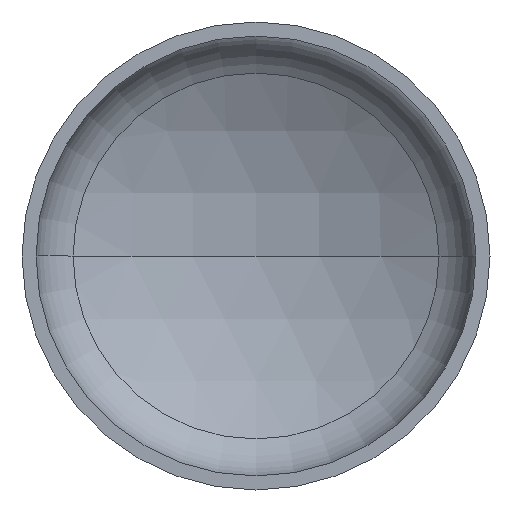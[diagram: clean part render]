
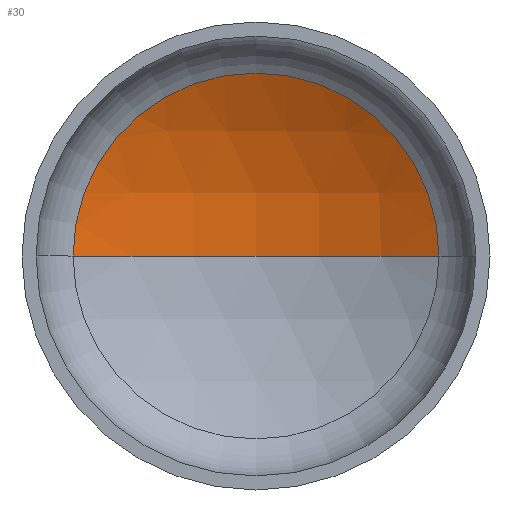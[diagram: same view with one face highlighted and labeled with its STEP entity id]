
A CAD part, front view. The second image highlights one B-rep face of the part: STEP entity #30.
In plain terms, the highlighted spherical face has radius 880 mm.
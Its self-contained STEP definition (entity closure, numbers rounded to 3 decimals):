
#2 = AXIS2_PLACEMENT_3D ( 'NONE', #372, #269, #104 ) ;
#7 = AXIS2_PLACEMENT_3D ( 'NONE', #389, #251, #409 ) ;
#9 = VERTEX_POINT ( 'NONE', #284 ) ;
#17 = EDGE_LOOP ( 'NONE', ( #272, #66, #26 ) ) ;
#25 = AXIS2_PLACEMENT_3D ( 'NONE', #171, #367, #225 ) ;
#26 = ORIENTED_EDGE ( 'NONE', *, *, #330, .T. ) ;
#30 = ADVANCED_FACE ( 'NONE', ( #141 ), #143, .F. ) ;
#66 = ORIENTED_EDGE ( 'NONE', *, *, #373, .T. ) ;
#79 = AXIS2_PLACEMENT_3D ( 'NONE', #403, #259, #249 ) ;
#80 = VERTEX_POINT ( 'NONE', #233 ) ;
#104 = DIRECTION ( 'NONE',  ( 1., 0., 0. ) ) ;
#124 = VERTEX_POINT ( 'NONE', #223 ) ;
#128 = CIRCLE ( 'NONE', #7, 880. ) ;
#141 = FACE_OUTER_BOUND ( 'NONE', #17, .T. ) ;
#143 = SPHERICAL_SURFACE ( 'NONE', #79, 880. ) ;
#156 = CIRCLE ( 'NONE', #25, 430.085 ) ;
#171 = CARTESIAN_POINT ( 'NONE',  ( 0., 248.314, 0. ) ) ;
#223 = CARTESIAN_POINT ( 'NONE',  ( 0., 360.572, 0. ) ) ;
#225 = DIRECTION ( 'NONE',  ( 1., 0., 0. ) ) ;
#233 = CARTESIAN_POINT ( 'NONE',  ( -430.085, 248.314, 0. ) ) ;
#249 = DIRECTION ( 'NONE',  ( -1., 0., 0. ) ) ;
#251 = DIRECTION ( 'NONE',  ( 0., 0., -1. ) ) ;
#259 = DIRECTION ( 'NONE',  ( 0., 0., -1. ) ) ;
#269 = DIRECTION ( 'NONE',  ( 0., 0., 1. ) ) ;
#272 = ORIENTED_EDGE ( 'NONE', *, *, #368, .F. ) ;
#284 = CARTESIAN_POINT ( 'NONE',  ( 430.085, 248.314, 0. ) ) ;
#321 = CIRCLE ( 'NONE', #2, 880. ) ;
#330 = EDGE_CURVE ( 'NONE', #9, #80, #156, .T. ) ;
#367 = DIRECTION ( 'NONE',  ( 0., -1., 0. ) ) ;
#368 = EDGE_CURVE ( 'NONE', #124, #80, #321, .T. ) ;
#372 = CARTESIAN_POINT ( 'NONE',  ( 0., -519.428, 0. ) ) ;
#373 = EDGE_CURVE ( 'NONE', #124, #9, #128, .T. ) ;
#389 = CARTESIAN_POINT ( 'NONE',  ( 0., -519.428, 0. ) ) ;
#403 = CARTESIAN_POINT ( 'NONE',  ( 0., -519.428, 0. ) ) ;
#409 = DIRECTION ( 'NONE',  ( -1., 0., 0. ) ) ;
